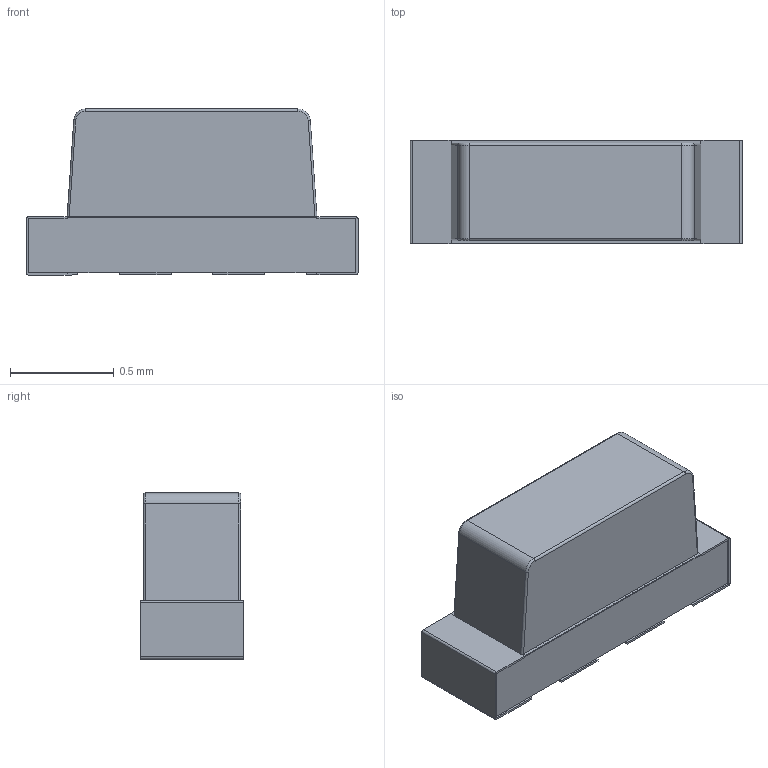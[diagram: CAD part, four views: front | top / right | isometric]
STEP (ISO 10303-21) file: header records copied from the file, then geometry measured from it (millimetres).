
FILE_DESCRIPTION(/* description */ ('Unknown'),/* implementation_level */ '2;1');
FILE_NAME(/* name */ 'IN-S63TBS5R5G5B',/* time_stamp */ '2023-02-02T13:22:01+02:00',/* author */ ('Unknown'),/* organization */ ('Unknown'),/* preprocessor_version */ 'ST-DEVELOPER v18.102',/* originating_system */ 'Solid Edge',/* authorisation */ 'Unknown');
FILE_SCHEMA (('AUTOMOTIVE_DESIGN {1 0 10303 214 3 1 1}'));
Length unit declared in the file: millimetre
Products named in the file (1): IN-S63TBS5R5G5B
Bounding box: 1.6 x 0.5 x 0.8 mm (x, y, z)
Volume: 0.5 mm3; surface area: 4.5 mm2
Topology: 1 solids, 1 shells, 78 faces, 196 edges, 120 vertices
Faces by surface type: plane 62, cylinder 12, torus 4
Entity records: 2877 total; most frequent: CARTESIAN_POINT 395, ORIENTED_EDGE 392, DIRECTION 382, EDGE_CURVE 196, LINE 168, VECTOR 168, VERTEX_POINT 120, AXIS2_PLACEMENT_3D 107
